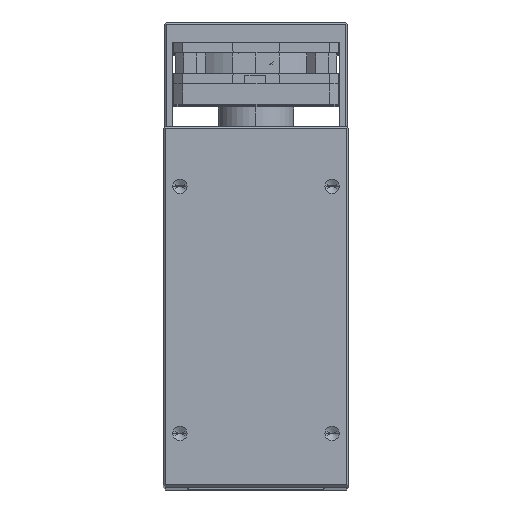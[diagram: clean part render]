
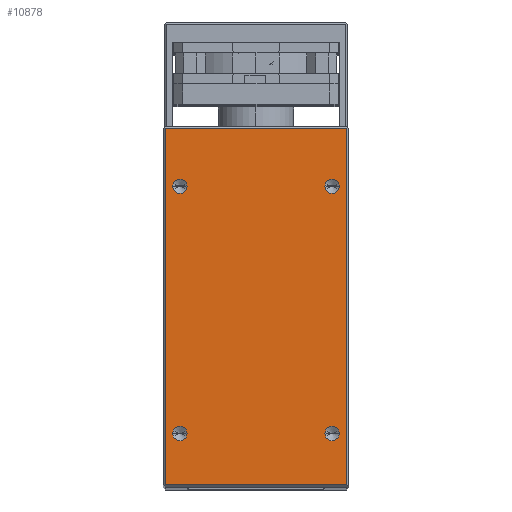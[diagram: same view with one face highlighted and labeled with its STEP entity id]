
A CAD part, top view. The second image highlights one B-rep face of the part: STEP entity #10878.
In plain terms, the highlighted planar face has unit normal (0, 0, 1).
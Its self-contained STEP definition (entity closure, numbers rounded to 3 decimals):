
#2700=CARTESIAN_POINT('',(41.289,-38.919,208.));
#2701=DIRECTION('',(0.,0.,1.));
#2702=DIRECTION('',(1.,0.,0.));
#2703=AXIS2_PLACEMENT_3D('',#2700,#2701,#2702);
#2705=CARTESIAN_POINT('',(41.289,-38.919,208.));
#2706=DIRECTION('',(0.,0.,1.));
#2707=DIRECTION('',(-1.,0.,0.));
#2708=AXIS2_PLACEMENT_3D('',#2705,#2706,#2707);
#2710=CARTESIAN_POINT('',(4.289,-38.919,208.));
#2711=DIRECTION('',(0.,0.,1.));
#2712=DIRECTION('',(1.,0.,0.));
#2713=AXIS2_PLACEMENT_3D('',#2710,#2711,#2712);
#2715=CARTESIAN_POINT('',(4.289,-38.919,208.));
#2716=DIRECTION('',(0.,0.,1.));
#2717=DIRECTION('',(-1.,0.,0.));
#2718=AXIS2_PLACEMENT_3D('',#2715,#2716,#2717);
#2720=CARTESIAN_POINT('',(41.289,21.081,208.));
#2721=DIRECTION('',(0.,0.,1.));
#2722=DIRECTION('',(1.,0.,0.));
#2723=AXIS2_PLACEMENT_3D('',#2720,#2721,#2722);
#2725=CARTESIAN_POINT('',(41.289,21.081,208.));
#2726=DIRECTION('',(0.,0.,1.));
#2727=DIRECTION('',(-1.,0.,0.));
#2728=AXIS2_PLACEMENT_3D('',#2725,#2726,#2727);
#2730=CARTESIAN_POINT('',(4.289,21.081,208.));
#2731=DIRECTION('',(0.,0.,1.));
#2732=DIRECTION('',(1.,0.,0.));
#2733=AXIS2_PLACEMENT_3D('',#2730,#2731,#2732);
#2735=CARTESIAN_POINT('',(4.289,21.081,208.));
#2736=DIRECTION('',(0.,0.,1.));
#2737=DIRECTION('',(-1.,0.,0.));
#2738=AXIS2_PLACEMENT_3D('',#2735,#2736,#2737);
#2740=DIRECTION('',(1.,0.,0.));
#2741=VECTOR('',#2740,44.);
#2742=CARTESIAN_POINT('',(0.789,-51.419,208.));
#2743=LINE('',#2742,#2741);
#2744=DIRECTION('',(0.,-1.,0.));
#2745=VECTOR('',#2744,86.5);
#2746=CARTESIAN_POINT('',(0.789,35.081,208.));
#2747=LINE('',#2746,#2745);
#2748=DIRECTION('',(-1.,0.,0.));
#2749=VECTOR('',#2748,44.);
#2750=CARTESIAN_POINT('',(44.789,35.081,208.));
#2751=LINE('',#2750,#2749);
#2752=DIRECTION('',(0.,1.,0.));
#2753=VECTOR('',#2752,86.5);
#2754=CARTESIAN_POINT('',(44.789,-51.419,208.));
#2755=LINE('',#2754,#2753);
#6060=CARTESIAN_POINT('',(43.039,-38.919,208.));
#6061=CARTESIAN_POINT('',(39.539,-38.919,208.));
#6062=VERTEX_POINT('',#6060);
#6063=VERTEX_POINT('',#6061);
#6070=CARTESIAN_POINT('',(6.039,-38.919,208.));
#6071=CARTESIAN_POINT('',(2.539,-38.919,208.));
#6072=VERTEX_POINT('',#6070);
#6073=VERTEX_POINT('',#6071);
#6080=CARTESIAN_POINT('',(43.039,21.081,208.));
#6081=CARTESIAN_POINT('',(39.539,21.081,208.));
#6082=VERTEX_POINT('',#6080);
#6083=VERTEX_POINT('',#6081);
#6090=CARTESIAN_POINT('',(6.039,21.081,208.));
#6091=CARTESIAN_POINT('',(2.539,21.081,208.));
#6092=VERTEX_POINT('',#6090);
#6093=VERTEX_POINT('',#6091);
#6098=CARTESIAN_POINT('',(0.789,-51.419,208.));
#6099=CARTESIAN_POINT('',(44.789,-51.419,208.));
#6100=VERTEX_POINT('',#6098);
#6101=VERTEX_POINT('',#6099);
#6106=CARTESIAN_POINT('',(0.789,35.081,208.));
#6107=VERTEX_POINT('',#6106);
#6114=CARTESIAN_POINT('',(44.789,35.081,208.));
#6115=VERTEX_POINT('',#6114);
#10840=CARTESIAN_POINT('',(22.789,-8.169,208.));
#10841=DIRECTION('',(0.,0.,-1.));
#10842=DIRECTION('',(1.,0.,0.));
#10843=AXIS2_PLACEMENT_3D('',#10840,#10841,#10842);
#10844=PLANE('',#10843);
#10846=ORIENTED_EDGE('',*,*,#10845,.F.);
#10848=ORIENTED_EDGE('',*,*,#10847,.F.);
#10849=ORIENTED_EDGE('',*,*,#10827,.F.);
#10851=ORIENTED_EDGE('',*,*,#10850,.F.);
#10852=EDGE_LOOP('',(#10846,#10848,#10849,#10851));
#10853=FACE_OUTER_BOUND('',#10852,.F.);
#10855=ORIENTED_EDGE('',*,*,#10854,.T.);
#10857=ORIENTED_EDGE('',*,*,#10856,.T.);
#10858=EDGE_LOOP('',(#10855,#10857));
#10859=FACE_BOUND('',#10858,.F.);
#10861=ORIENTED_EDGE('',*,*,#10860,.T.);
#10863=ORIENTED_EDGE('',*,*,#10862,.T.);
#10864=EDGE_LOOP('',(#10861,#10863));
#10865=FACE_BOUND('',#10864,.F.);
#10867=ORIENTED_EDGE('',*,*,#10866,.T.);
#10869=ORIENTED_EDGE('',*,*,#10868,.T.);
#10870=EDGE_LOOP('',(#10867,#10869));
#10871=FACE_BOUND('',#10870,.F.);
#10873=ORIENTED_EDGE('',*,*,#10872,.T.);
#10875=ORIENTED_EDGE('',*,*,#10874,.T.);
#10876=EDGE_LOOP('',(#10873,#10875));
#10877=FACE_BOUND('',#10876,.F.);
#2704=CIRCLE('',#2703,1.75);
#2709=CIRCLE('',#2708,1.75);
#2714=CIRCLE('',#2713,1.75);
#2719=CIRCLE('',#2718,1.75);
#2724=CIRCLE('',#2723,1.75);
#2729=CIRCLE('',#2728,1.75);
#2734=CIRCLE('',#2733,1.75);
#2739=CIRCLE('',#2738,1.75);
#10827=EDGE_CURVE('',#6115,#6107,#2751,.T.);
#10845=EDGE_CURVE('',#6100,#6101,#2743,.T.);
#10847=EDGE_CURVE('',#6107,#6100,#2747,.T.);
#10850=EDGE_CURVE('',#6101,#6115,#2755,.T.);
#10854=EDGE_CURVE('',#6072,#6073,#2714,.T.);
#10856=EDGE_CURVE('',#6073,#6072,#2719,.T.);
#10860=EDGE_CURVE('',#6082,#6083,#2724,.T.);
#10862=EDGE_CURVE('',#6083,#6082,#2729,.T.);
#10866=EDGE_CURVE('',#6092,#6093,#2734,.T.);
#10868=EDGE_CURVE('',#6093,#6092,#2739,.T.);
#10872=EDGE_CURVE('',#6062,#6063,#2704,.T.);
#10874=EDGE_CURVE('',#6063,#6062,#2709,.T.);
#10878=ADVANCED_FACE('',(#10853,#10859,#10865,#10871,#10877),#10844,.F.);
